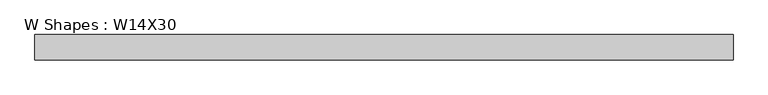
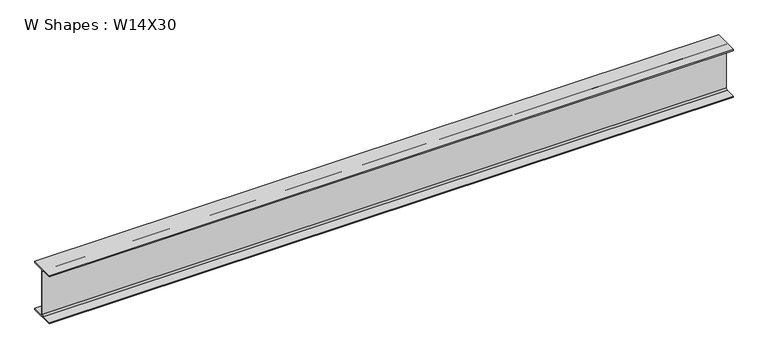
"""IFC4 building model written with IfcOpenShell, lengths in millimetres: beam geometry, W Shapes : W14X30."""

from ifc_helpers import new_model, si_unit, point, frame, frame_2d, origin, place, context, project, spatial, polyline, circle_curve, trimmed, segment, composite_curve, outline, extrude, source, transform, mapped, element, save


def w_shapes_w14x30_aa676985(model_context):
    return source(origin(), model_context, "Body", "SweptSolid", [
        extrude(outline(composite_curve([segment(polyline([(85.471, -165.481), (85.471, -175.26), (-85.471, -175.26), (-85.471, -165.481), (-13.589, -165.481)]), True, "CONTINUOUS"), segment(trimmed(circle_curve(frame_2d((-13.589, -155.321)), 10.16), [point((-13.589, -165.481))], [point((-3.429, -155.321))], True, "CARTESIAN"), True, "CONTINUOUS"), segment(polyline([(-3.429, -155.321), (-3.429, 155.321)]), True, "CONTINUOUS"), segment(trimmed(circle_curve(frame_2d((-13.589, 155.321)), 10.16), [point((-3.429, 155.321))], [point((-13.589, 165.481))], True, "CARTESIAN"), True, "CONTINUOUS"), segment(polyline([(-13.589, 165.481), (-85.471, 165.481), (-85.471, 175.26), (85.471, 175.26), (85.471, 165.481), (13.589, 165.481)]), True, "CONTINUOUS"), segment(trimmed(circle_curve(frame_2d((13.589, 155.321)), 10.16), [point((13.589, 165.481))], [point((3.429, 155.321))], True, "CARTESIAN"), True, "CONTINUOUS"), segment(polyline([(3.429, 155.321), (3.429, -155.321)]), True, "CONTINUOUS"), segment(trimmed(circle_curve(frame_2d((13.589, -155.321)), 10.16), [point((3.429, -155.321))], [point((13.589, -165.481))], True, "CARTESIAN"), True, "CONTINUOUS"), segment(polyline([(13.589, -165.481), (85.471, -165.481)]), True, "CONTINUOUS")], self_intersect=False)), frame((-2347.9125, 0.0, 0.0), z_axis=(1.0, 0.0, 0.0), x_axis=(0.0, 1.0, 0.0)), (0.0, 0.0, 1.0), 4695.825),
    ])


if __name__ == "__main__":
    model = new_model("IFC4")
    model_context = context("Model", 3, world=origin())
    ifc_project = project(units=[si_unit("LENGTHUNIT", "METRE", prefix="MILLI")], contexts=[model_context])
    site = spatial("IfcSite", under=ifc_project)
    building = spatial("IfcBuilding", under=site)
    placement = place(None, origin())
    w_shapes_w14x30_shape = w_shapes_w14x30_aa676985(model_context)
    element("IfcBeam", 1, ObjectType="W Shapes : W14X30", at=placement, inside=building, context=model_context, shape_type="MappedRepresentation", body=[
        mapped(w_shapes_w14x30_shape, transform((0.0, 0.0, 0.0), x_axis=(1.0, 0.0, 0.0), y_axis=(0.0, 1.0, 0.0), z_axis=(0.0, 0.0, 1.0))),
    ])
    save(model, "model.ifc")
